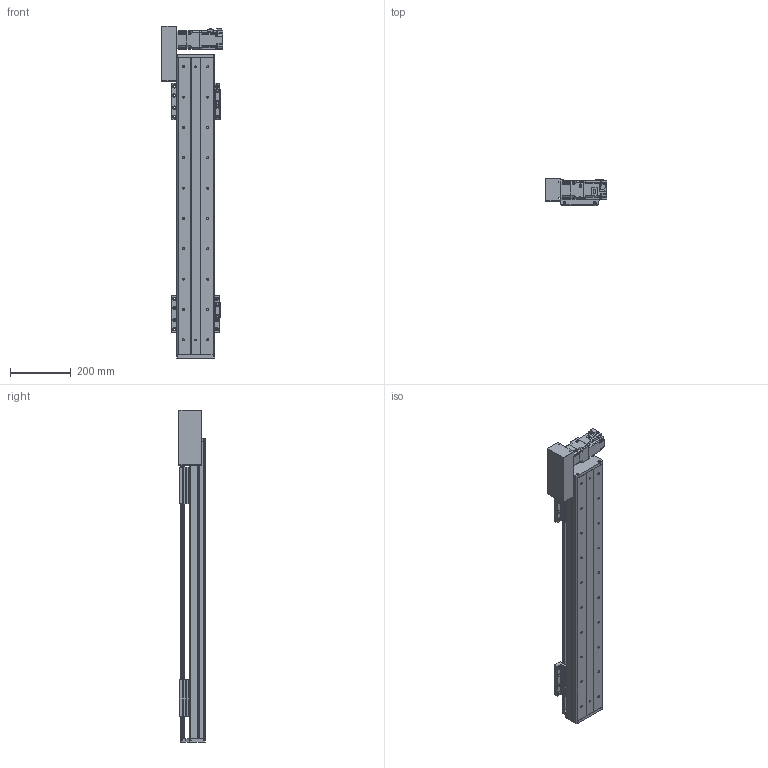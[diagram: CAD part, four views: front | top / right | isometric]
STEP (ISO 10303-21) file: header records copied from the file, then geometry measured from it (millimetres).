
FILE_DESCRIPTION(/* description */ (''),/* implementation_level */ '2;1');
FILE_NAME(/* name */ 'C:\Users\PC\Desktop\3D도면\STEP\DSB125-L2G-W0700-R.stp',/* time_stamp */ '2018-06-13T10:12:05+09:00',/* author */ ('PC'),/* organization */ (''),/* preprocessor_version */ 'ST-DEVELOPER v16.5',/* originating_system */ 'Autodesk Inventor 2017',/* authorisation */ '');
FILE_SCHEMA (('AUTOMOTIVE_DESIGN { 1 0 10303 214 3 1 1 }'));
Length unit declared in the file: millimetre
Products named in the file (12): DSB125-L-300ST; DSR125-BASE(S-TYPE); DSR125-REAR COVER-R01(170203); DSR125-REAR COVER-R01(170203)_1; DSR125-UP COVER-R01(170203); DSR125-TABLE(MSA15X); hg-kr23_; ab0601-p0401200402; 13-BELT COVER; DSR126-SENSOR DOG; pm-y65_step; SENSOR BRACKET(EE-SX674A)
Assembly tree (16 placements, depth 2):
  DSB125-L-300ST
    DSR125-BASE(S-TYPE)
    DSR125-REAR COVER-R01(170203)
    DSR125-REAR COVER-R01(170203)_1
    DSR125-UP COVER-R01(170203)
    DSR125-TABLE(MSA15X)  x2
    hg-kr23_
    ab0601-p0401200402
    13-BELT COVER
    DSR126-SENSOR DOG
    pm-y65_step  x3
    SENSOR BRACKET(EE-SX674A)  x3
Bounding box: 202.1 x 88 x 1094 mm (x, y, z)
Volume: 3977591.6 mm3; surface area: 1148271.6 mm2
Topology: 17 solids, 22 shells, 1661 faces, 4501 edges, 2970 vertices
Faces by surface type: plane 908, cylinder 631, cone 110, sphere 8, torus 4
Full cylindrical faces by diameter (mm): 2.459 x20, 3.242 x16, 3.5 x6, 4 x1, 4.134 x16, 4.2 x4, 4.3 x1, 4.5 x50, 4.917 x20, 5 x27, 5.3 x1, 5.5 x4, 5.6 x8, 5.8 x4, 5.9 x8, 6 x4, 6.6 x22, 6.647 x20, 7.5 x32, 8.5 x8, 8.7 x1, 11 x22, 14 x1, 16 x2, 17 x1, 20 x1, 47 x1, 50 x3
Entity records: 35350 total; most frequent: CARTESIAN_POINT 6499, DIRECTION 6124, ORIENTED_EDGE 5478, EDGE_CURVE 2744, AXIS2_PLACEMENT_3D 2250, VERTEX_POINT 1953, EDGE_LOOP 1673, LINE 1624
